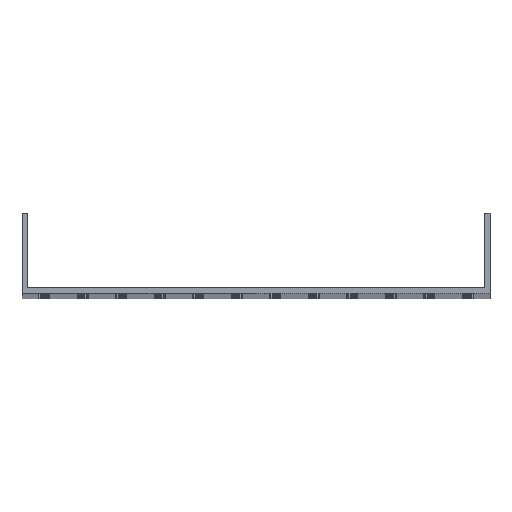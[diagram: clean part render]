
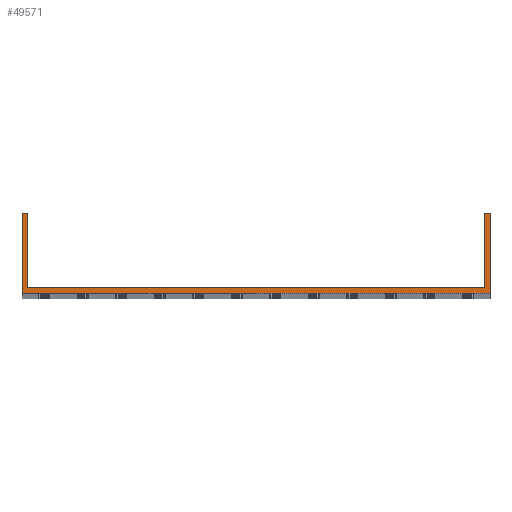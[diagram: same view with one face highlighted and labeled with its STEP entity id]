
A CAD part, top view. The second image highlights one B-rep face of the part: STEP entity #49571.
In plain terms, the highlighted planar face has unit normal (0, 0, 1).
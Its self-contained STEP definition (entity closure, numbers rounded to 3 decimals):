
#405 = EDGE_CURVE ( 'NONE', #17029, #60211, #8327, .T. ) ;
#1362 = VERTEX_POINT ( 'NONE', #87318 ) ;
#1634 = DIRECTION ( 'NONE',  ( 0., 1., 0. ) ) ;
#2411 = VECTOR ( 'NONE', #89510, 1000. ) ;
#3861 = LINE ( 'NONE', #53442, #78462 ) ;
#5020 = LINE ( 'NONE', #87934, #21676 ) ;
#6365 = PLANE ( 'NONE',  #42173 ) ;
#7359 = DIRECTION ( 'NONE',  ( 0., -1., 0. ) ) ;
#7431 = DIRECTION ( 'NONE',  ( 0., 1., 0. ) ) ;
#7679 = EDGE_CURVE ( 'NONE', #18914, #1362, #59062, .T. ) ;
#8327 = LINE ( 'NONE', #49595, #11871 ) ;
#9510 = EDGE_CURVE ( 'NONE', #81193, #18914, #19124, .T. ) ;
#11871 = VECTOR ( 'NONE', #7431, 1000. ) ;
#13852 = VECTOR ( 'NONE', #35835, 1000. ) ;
#14553 = CARTESIAN_POINT ( 'NONE',  ( -152., 52., 1000. ) ) ;
#14773 = CARTESIAN_POINT ( 'NONE',  ( -148.5, 52., 1000. ) ) ;
#14915 = EDGE_CURVE ( 'NONE', #90857, #17029, #3861, .T. ) ;
#17029 = VERTEX_POINT ( 'NONE', #75910 ) ;
#18914 = VERTEX_POINT ( 'NONE', #78248 ) ;
#19124 = LINE ( 'NONE', #38572, #2411 ) ;
#21676 = VECTOR ( 'NONE', #33281, 1000. ) ;
#23504 = ORIENTED_EDGE ( 'NONE', *, *, #7679, .T. ) ;
#25391 = FACE_OUTER_BOUND ( 'NONE', #76770, .T. ) ;
#28642 = ORIENTED_EDGE ( 'NONE', *, *, #32944, .F. ) ;
#32944 = EDGE_CURVE ( 'NONE', #39959, #90857, #42117, .T. ) ;
#33281 = DIRECTION ( 'NONE',  ( -1., 0., 0. ) ) ;
#33929 = ORIENTED_EDGE ( 'NONE', *, *, #14915, .F. ) ;
#35835 = DIRECTION ( 'NONE',  ( -1., 0., 0. ) ) ;
#38572 = CARTESIAN_POINT ( 'NONE',  ( -152., 0., 1000. ) ) ;
#38979 = CARTESIAN_POINT ( 'NONE',  ( -148.5, 3.5, 1000. ) ) ;
#39959 = VERTEX_POINT ( 'NONE', #67131 ) ;
#40206 = CARTESIAN_POINT ( 'NONE',  ( 0., 0., 1000. ) ) ;
#42062 = EDGE_CURVE ( 'NONE', #39959, #66754, #5020, .T. ) ;
#42117 = LINE ( 'NONE', #14773, #74168 ) ;
#42173 = AXIS2_PLACEMENT_3D ( 'NONE', #40206, #68917, #53645 ) ;
#49571 = ADVANCED_FACE ( 'NONE', ( #25391 ), #6365, .T. ) ;
#49595 = CARTESIAN_POINT ( 'NONE',  ( 148.5, 52., 1000. ) ) ;
#50816 = ORIENTED_EDGE ( 'NONE', *, *, #42062, .T. ) ;
#50891 = CARTESIAN_POINT ( 'NONE',  ( 148.5, 52., 1000. ) ) ;
#53442 = CARTESIAN_POINT ( 'NONE',  ( -152., 3.5, 1000. ) ) ;
#53645 = DIRECTION ( 'NONE',  ( 1., 0., 0. ) ) ;
#53894 = CARTESIAN_POINT ( 'NONE',  ( -152., 52., 1000. ) ) ;
#54682 = VECTOR ( 'NONE', #57553, 1000. ) ;
#55546 = VECTOR ( 'NONE', #1634, 1000. ) ;
#57553 = DIRECTION ( 'NONE',  ( 0., -1., 0. ) ) ;
#58545 = EDGE_CURVE ( 'NONE', #66754, #81193, #85797, .T. ) ;
#59062 = LINE ( 'NONE', #71573, #55546 ) ;
#59342 = ORIENTED_EDGE ( 'NONE', *, *, #58545, .T. ) ;
#60211 = VERTEX_POINT ( 'NONE', #50891 ) ;
#60630 = CARTESIAN_POINT ( 'NONE',  ( -152., 0., 1000. ) ) ;
#61407 = ORIENTED_EDGE ( 'NONE', *, *, #71195, .T. ) ;
#66152 = ORIENTED_EDGE ( 'NONE', *, *, #9510, .T. ) ;
#66754 = VERTEX_POINT ( 'NONE', #53894 ) ;
#67131 = CARTESIAN_POINT ( 'NONE',  ( -148.5, 52., 1000. ) ) ;
#67793 = DIRECTION ( 'NONE',  ( 1., 0., 0. ) ) ;
#68917 = DIRECTION ( 'NONE',  ( 0., 0., 1. ) ) ;
#69112 = ORIENTED_EDGE ( 'NONE', *, *, #405, .F. ) ;
#70535 = CARTESIAN_POINT ( 'NONE',  ( -152., 52., 1000. ) ) ;
#71195 = EDGE_CURVE ( 'NONE', #1362, #60211, #71496, .T. ) ;
#71496 = LINE ( 'NONE', #14553, #13852 ) ;
#71573 = CARTESIAN_POINT ( 'NONE',  ( 152., 52., 1000. ) ) ;
#74168 = VECTOR ( 'NONE', #7359, 1000. ) ;
#75910 = CARTESIAN_POINT ( 'NONE',  ( 148.5, 3.5, 1000. ) ) ;
#76770 = EDGE_LOOP ( 'NONE', ( #28642, #50816, #59342, #66152, #23504, #61407, #69112, #33929 ) ) ;
#78248 = CARTESIAN_POINT ( 'NONE',  ( 152., 0., 1000. ) ) ;
#78462 = VECTOR ( 'NONE', #67793, 1000. ) ;
#81193 = VERTEX_POINT ( 'NONE', #60630 ) ;
#85797 = LINE ( 'NONE', #70535, #54682 ) ;
#87318 = CARTESIAN_POINT ( 'NONE',  ( 152., 52., 1000. ) ) ;
#87934 = CARTESIAN_POINT ( 'NONE',  ( -152., 52., 1000. ) ) ;
#89510 = DIRECTION ( 'NONE',  ( 1., 0., 0. ) ) ;
#90857 = VERTEX_POINT ( 'NONE', #38979 ) ;
